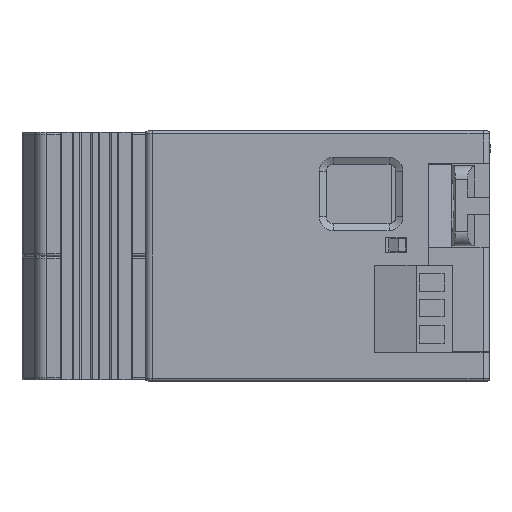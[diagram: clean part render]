
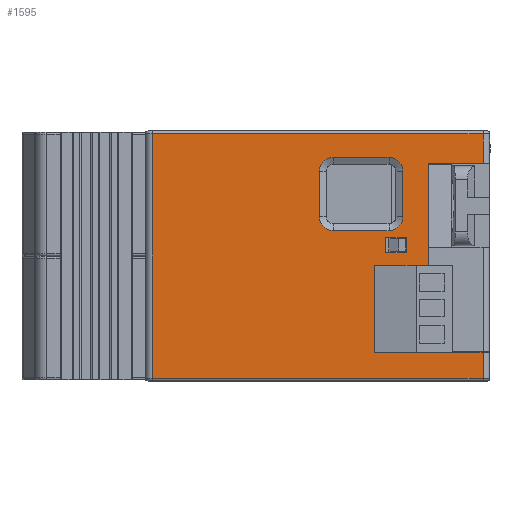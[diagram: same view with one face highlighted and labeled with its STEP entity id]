
A CAD part, left-side view. The second image highlights one B-rep face of the part: STEP entity #1595.
In plain terms, the highlighted planar face has unit normal (-1, 0, 0).
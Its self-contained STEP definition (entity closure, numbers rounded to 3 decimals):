
#261=FACE_BOUND('',#3588,.T.);
#262=FACE_BOUND('',#3590,.T.);
#263=FACE_BOUND('',#3591,.T.);
#764=CIRCLE('',#13913,2.);
#765=CIRCLE('',#13916,2.);
#766=CIRCLE('',#13919,2.);
#767=CIRCLE('',#13922,2.);
#1595=ADVANCED_FACE('',(#261,#2792,#262,#263),#2060,.F.);
#2060=PLANE('',#14377);
#2792=FACE_OUTER_BOUND('',#3589,.T.);
#3588=EDGE_LOOP('',(#6832,#6833,#6834,#6835));
#3589=EDGE_LOOP('',(#6836,#6837,#6838,#6839,#6840,#6841,#6842,#6843,#6844,
#6845,#6846,#6847));
#3590=EDGE_LOOP('',(#6848,#6849,#6850,#6851));
#3591=EDGE_LOOP('',(#6852,#6853,#6854,#6855,#6856,#6857,#6858,#6859));
#6832=ORIENTED_EDGE('',*,*,#10256,.F.);
#6833=ORIENTED_EDGE('',*,*,#9560,.F.);
#6834=ORIENTED_EDGE('',*,*,#9664,.T.);
#6835=ORIENTED_EDGE('',*,*,#9669,.T.);
#6836=ORIENTED_EDGE('',*,*,#10349,.F.);
#6837=ORIENTED_EDGE('',*,*,#10350,.F.);
#6838=ORIENTED_EDGE('',*,*,#10263,.T.);
#6839=ORIENTED_EDGE('',*,*,#10344,.T.);
#6840=ORIENTED_EDGE('',*,*,#9555,.T.);
#6841=ORIENTED_EDGE('',*,*,#9644,.T.);
#6842=ORIENTED_EDGE('',*,*,#9716,.T.);
#6843=ORIENTED_EDGE('',*,*,#9717,.T.);
#6844=ORIENTED_EDGE('',*,*,#9722,.T.);
#6845=ORIENTED_EDGE('',*,*,#9665,.T.);
#6846=ORIENTED_EDGE('',*,*,#8774,.F.);
#6847=ORIENTED_EDGE('',*,*,#10302,.F.);
#6848=ORIENTED_EDGE('',*,*,#9691,.F.);
#6849=ORIENTED_EDGE('',*,*,#9713,.T.);
#6850=ORIENTED_EDGE('',*,*,#9695,.T.);
#6851=ORIENTED_EDGE('',*,*,#9693,.F.);
#6852=ORIENTED_EDGE('',*,*,#9726,.T.);
#6853=ORIENTED_EDGE('',*,*,#9728,.T.);
#6854=ORIENTED_EDGE('',*,*,#9730,.T.);
#6855=ORIENTED_EDGE('',*,*,#9732,.T.);
#6856=ORIENTED_EDGE('',*,*,#9734,.T.);
#6857=ORIENTED_EDGE('',*,*,#9736,.T.);
#6858=ORIENTED_EDGE('',*,*,#9738,.T.);
#6859=ORIENTED_EDGE('',*,*,#9739,.T.);
#7578=VERTEX_POINT('',#18468);
#7579=VERTEX_POINT('',#18470);
#8131=VERTEX_POINT('',#20202);
#8132=VERTEX_POINT('',#20204);
#8134=VERTEX_POINT('',#20209);
#8136=VERTEX_POINT('',#20213);
#8187=VERTEX_POINT('',#20472);
#8191=VERTEX_POINT('',#20535);
#8192=VERTEX_POINT('',#20539);
#8194=VERTEX_POINT('',#20545);
#8198=VERTEX_POINT('',#20612);
#8199=VERTEX_POINT('',#20614);
#8200=VERTEX_POINT('',#20618);
#8201=VERTEX_POINT('',#20622);
#8210=VERTEX_POINT('',#20662);
#8211=VERTEX_POINT('',#20666);
#8214=VERTEX_POINT('',#20678);
#8215=VERTEX_POINT('',#20680);
#8216=VERTEX_POINT('',#20684);
#8217=VERTEX_POINT('',#20688);
#8218=VERTEX_POINT('',#20692);
#8219=VERTEX_POINT('',#20696);
#8220=VERTEX_POINT('',#20700);
#8221=VERTEX_POINT('',#20704);
#8494=VERTEX_POINT('',#22096);
#8496=VERTEX_POINT('',#22102);
#8533=VERTEX_POINT('',#22179);
#8568=VERTEX_POINT('',#22268);
#8774=EDGE_CURVE('',#7578,#7579,#10665,.T.);
#9555=EDGE_CURVE('',#8132,#8131,#11226,.T.);
#9560=EDGE_CURVE('',#8136,#8134,#11231,.T.);
#9644=EDGE_CURVE('',#8131,#8187,#11284,.T.);
#9664=EDGE_CURVE('',#8136,#8191,#11289,.T.);
#9665=EDGE_CURVE('',#8192,#7579,#11290,.T.);
#9669=EDGE_CURVE('',#8191,#8194,#11293,.T.);
#9691=EDGE_CURVE('',#8198,#8199,#11300,.T.);
#9693=EDGE_CURVE('',#8199,#8200,#11302,.T.);
#9695=EDGE_CURVE('',#8201,#8200,#11304,.T.);
#9713=EDGE_CURVE('',#8198,#8201,#11318,.T.);
#9716=EDGE_CURVE('',#8187,#8210,#11319,.T.);
#9717=EDGE_CURVE('',#8210,#8211,#11320,.T.);
#9722=EDGE_CURVE('',#8211,#8192,#11322,.T.);
#9726=EDGE_CURVE('',#8214,#8215,#11325,.T.);
#9728=EDGE_CURVE('',#8215,#8216,#764,.T.);
#9730=EDGE_CURVE('',#8216,#8217,#11328,.T.);
#9732=EDGE_CURVE('',#8217,#8218,#765,.T.);
#9734=EDGE_CURVE('',#8218,#8219,#11331,.T.);
#9736=EDGE_CURVE('',#8219,#8220,#766,.T.);
#9738=EDGE_CURVE('',#8220,#8221,#11334,.T.);
#9739=EDGE_CURVE('',#8221,#8214,#767,.T.);
#10256=EDGE_CURVE('',#8134,#8194,#11647,.T.);
#10263=EDGE_CURVE('',#8496,#8494,#11654,.T.);
#10302=EDGE_CURVE('',#8533,#7578,#11687,.T.);
#10344=EDGE_CURVE('',#8494,#8132,#11729,.T.);
#10349=EDGE_CURVE('',#8568,#8533,#11734,.T.);
#10350=EDGE_CURVE('',#8496,#8568,#11735,.T.);
#10665=LINE('',#18469,#12008);
#11226=LINE('',#20203,#12569);
#11231=LINE('',#20214,#12574);
#11284=LINE('',#20473,#12627);
#11289=LINE('',#20536,#12632);
#11290=LINE('',#20538,#12633);
#11293=LINE('',#20546,#12636);
#11300=LINE('',#20613,#12643);
#11302=LINE('',#20617,#12645);
#11304=LINE('',#20621,#12647);
#11318=LINE('',#20657,#12661);
#11319=LINE('',#20663,#12662);
#11320=LINE('',#20665,#12663);
#11322=LINE('',#20674,#12665);
#11325=LINE('',#20681,#12668);
#11328=LINE('',#20689,#12671);
#11331=LINE('',#20697,#12674);
#11334=LINE('',#20705,#12677);
#11647=LINE('',#22087,#12990);
#11654=LINE('',#22101,#12997);
#11687=LINE('',#22180,#13030);
#11729=LINE('',#22261,#13072);
#11734=LINE('',#22267,#13077);
#11735=LINE('',#22269,#13078);
#12008=VECTOR('',#14619,1.);
#12569=VECTOR('',#16060,1.);
#12574=VECTOR('',#16067,1.);
#12627=VECTOR('',#16214,1.);
#12632=VECTOR('',#16263,1.);
#12633=VECTOR('',#16266,1.);
#12636=VECTOR('',#16273,1.);
#12643=VECTOR('',#16342,1.);
#12645=VECTOR('',#16346,1.);
#12647=VECTOR('',#16350,1.);
#12661=VECTOR('',#16390,1.);
#12662=VECTOR('',#16399,1.);
#12663=VECTOR('',#16402,1.);
#12665=VECTOR('',#16412,1.);
#12668=VECTOR('',#16419,1.);
#12671=VECTOR('',#16428,1.);
#12674=VECTOR('',#16437,1.);
#12677=VECTOR('',#16446,1.);
#12990=VECTOR('',#17637,1.);
#12997=VECTOR('',#17650,1.);
#13030=VECTOR('',#17699,1.);
#13072=VECTOR('',#17751,1.);
#13077=VECTOR('',#17758,1.);
#13078=VECTOR('',#17759,1.);
#13913=AXIS2_PLACEMENT_3D('',#20685,#16423,#16424);
#13916=AXIS2_PLACEMENT_3D('',#20693,#16432,#16433);
#13919=AXIS2_PLACEMENT_3D('',#20701,#16441,#16442);
#13922=AXIS2_PLACEMENT_3D('',#20707,#16449,#16450);
#14377=AXIS2_PLACEMENT_3D('',#22270,#17760,#17761);
#14619=DIRECTION('',(0.,-1.,0.));
#16060=DIRECTION('',(0.,-1.,0.));
#16067=DIRECTION('',(0.,-1.,0.));
#16214=DIRECTION('',(0.,0.,1.));
#16263=DIRECTION('',(0.,0.,1.));
#16266=DIRECTION('',(0.,0.,1.));
#16273=DIRECTION('',(0.,-1.,0.));
#16342=DIRECTION('',(0.,-1.,0.));
#16346=DIRECTION('',(0.,0.,1.));
#16350=DIRECTION('',(0.,-1.,0.));
#16390=DIRECTION('',(0.,0.,1.));
#16399=DIRECTION('',(0.,1.,0.));
#16402=DIRECTION('',(0.,0.,-1.));
#16412=DIRECTION('',(0.,-1.,0.));
#16419=DIRECTION('',(0.,0.,1.));
#16423=DIRECTION('',(1.,0.,0.));
#16424=DIRECTION('',(0.,0.,1.));
#16428=DIRECTION('',(0.,-1.,0.));
#16432=DIRECTION('',(1.,0.,0.));
#16433=DIRECTION('',(0.,0.,1.));
#16437=DIRECTION('',(0.,0.,-1.));
#16441=DIRECTION('',(1.,0.,0.));
#16442=DIRECTION('',(0.,0.,1.));
#16446=DIRECTION('',(0.,1.,0.));
#16449=DIRECTION('',(1.,0.,0.));
#16450=DIRECTION('',(0.,0.,1.));
#17637=DIRECTION('',(0.,0.,1.));
#17650=DIRECTION('',(0.,-1.,0.));
#17699=DIRECTION('',(0.,0.,1.));
#17751=DIRECTION('',(0.,0.,1.));
#17758=DIRECTION('',(0.,-1.,0.));
#17759=DIRECTION('',(0.,0.,-1.));
#17760=DIRECTION('',(1.,0.,0.));
#17761=DIRECTION('',(0.,0.,-1.));
#18468=CARTESIAN_POINT('',(0.,6.4,4.15));
#18469=CARTESIAN_POINT('',(0.,24.75,4.15));
#18470=CARTESIAN_POINT('',(0.,1.,4.15));
#20202=CARTESIAN_POINT('',(0.,1.,31.2));
#20203=CARTESIAN_POINT('',(0.,8.9,31.2));
#20204=CARTESIAN_POINT('',(0.,8.9,31.2));
#20209=CARTESIAN_POINT('',(0.,15.9,4.15));
#20213=CARTESIAN_POINT('',(0.,15.95,4.15));
#20214=CARTESIAN_POINT('',(0.,24.75,4.15));
#20472=CARTESIAN_POINT('',(0.,1.,35.5));
#20473=CARTESIAN_POINT('',(0.,1.,0.));
#20535=CARTESIAN_POINT('',(0.,15.95,16.55));
#20536=CARTESIAN_POINT('',(0.,15.95,15.85));
#20538=CARTESIAN_POINT('',(0.,1.,0.));
#20539=CARTESIAN_POINT('',(0.,1.,0.4));
#20545=CARTESIAN_POINT('',(0.,15.9,16.55));
#20546=CARTESIAN_POINT('',(0.,0.,16.55));
#20612=CARTESIAN_POINT('',(0.,15.,18.45));
#20613=CARTESIAN_POINT('',(0.,24.75,18.45));
#20614=CARTESIAN_POINT('',(0.,12.,18.45));
#20617=CARTESIAN_POINT('',(0.,12.,0.));
#20618=CARTESIAN_POINT('',(0.,12.,20.65));
#20621=CARTESIAN_POINT('',(0.,12.5,20.65));
#20622=CARTESIAN_POINT('',(0.,15.,20.65));
#20657=CARTESIAN_POINT('',(0.,15.,20.05));
#20662=CARTESIAN_POINT('',(0.,48.5,35.5));
#20663=CARTESIAN_POINT('',(0.,24.75,35.5));
#20665=CARTESIAN_POINT('',(0.,48.5,0.));
#20666=CARTESIAN_POINT('',(0.,48.5,0.4));
#20674=CARTESIAN_POINT('',(0.,24.75,0.4));
#20678=CARTESIAN_POINT('',(0.,24.5,23.6));
#20680=CARTESIAN_POINT('',(0.,24.5,30.1));
#20681=CARTESIAN_POINT('',(0.,24.5,30.1));
#20684=CARTESIAN_POINT('',(0.,22.5,32.1));
#20685=CARTESIAN_POINT('',(0.,22.5,30.1));
#20688=CARTESIAN_POINT('',(0.,14.5,32.1));
#20689=CARTESIAN_POINT('',(0.,14.5,32.1));
#20692=CARTESIAN_POINT('',(0.,12.5,30.1));
#20693=CARTESIAN_POINT('',(0.,14.5,30.1));
#20696=CARTESIAN_POINT('',(0.,12.5,23.6));
#20697=CARTESIAN_POINT('',(0.,12.5,23.6));
#20700=CARTESIAN_POINT('',(0.,14.5,21.6));
#20701=CARTESIAN_POINT('',(0.,14.5,23.6));
#20704=CARTESIAN_POINT('',(0.,22.5,21.6));
#20705=CARTESIAN_POINT('',(0.,22.5,21.6));
#20707=CARTESIAN_POINT('',(0.,22.5,23.6));
#22087=CARTESIAN_POINT('',(0.,15.9,4.15));
#22096=CARTESIAN_POINT('',(0.,8.9,16.65));
#22101=CARTESIAN_POINT('',(0.,11.,16.65));
#22102=CARTESIAN_POINT('',(0.,14.8,16.65));
#22179=CARTESIAN_POINT('',(0.,6.4,4.1));
#22180=CARTESIAN_POINT('',(0.,6.4,0.7));
#22261=CARTESIAN_POINT('',(0.,8.9,24.));
#22267=CARTESIAN_POINT('',(0.,11.,4.1));
#22268=CARTESIAN_POINT('',(0.,14.8,4.1));
#22269=CARTESIAN_POINT('',(0.,14.8,12.7));
#22270=CARTESIAN_POINT('',(0.,14.8,12.7));
